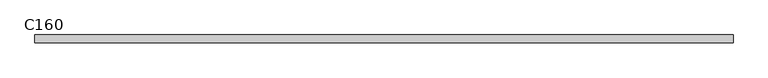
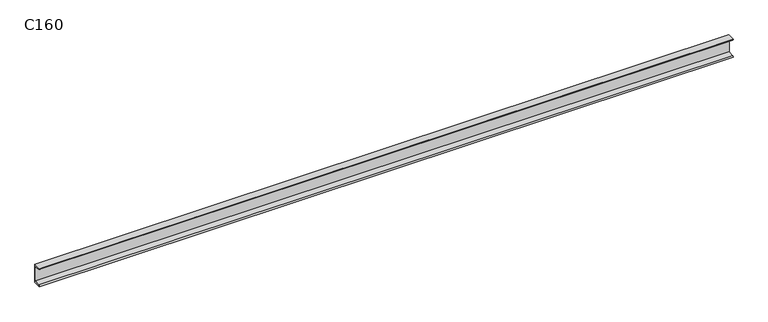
"""IFC4 building model written with IfcOpenShell, lengths in millimetres: beam geometry, RPLN C - Ceowniki normalne : C160."""

from ifc_helpers import new_model, si_unit, point, frame, frame_2d, origin, place, context, project, spatial, polyline, circle_curve, trimmed, segment, composite_curve, outline, extrude, source, transform, mapped, element, save


def c160_53ad175f(model_context):
    return source(origin(), model_context, "Body", "SweptSolid", [
        extrude(outline(composite_curve([segment(polyline([(18.4, 80.0), (18.4, -80.0), (-46.6, -80.0)]), True, "CONTINUOUS"), segment(trimmed(circle_curve(frame_2d((-36.1, -80.0)), 10.5), [point((-46.6, -80.0))], [point((-36.1, -69.5))], False, "CARTESIAN"), True, "CONTINUOUS"), segment(polyline([(-36.1, -69.5), (10.9, -62.0559313), (10.9, 62.0559313), (-36.1, 69.5)]), True, "CONTINUOUS"), segment(trimmed(circle_curve(frame_2d((-36.1, 80.0)), 10.5), [point((-36.1, 69.5))], [point((-46.6, 80.0))], False, "CARTESIAN"), True, "CONTINUOUS"), segment(polyline([(-46.6, 80.0), (18.4, 80.0)]), True, "CONTINUOUS")], self_intersect=False)), frame((-3000.0, 0.0, 0.0), z_axis=(1.0, 0.0, 0.0), x_axis=(0.0, 1.0, 0.0)), (0.0, 0.0, 1.0), 5795.6407568),
    ])


if __name__ == "__main__":
    model = new_model("IFC4")
    model_context = context("Model", 3, world=origin())
    ifc_project = project(units=[si_unit("LENGTHUNIT", "METRE", prefix="MILLI")], contexts=[model_context])
    site = spatial("IfcSite", under=ifc_project)
    building = spatial("IfcBuilding", under=site)
    placement = place(None, origin())
    c160_shape = c160_53ad175f(model_context)
    element("IfcBeam", 1, ObjectType="RPLN C - Ceowniki normalne : C160", at=placement, inside=building, context=model_context, shape_type="MappedRepresentation", body=[
        mapped(c160_shape, transform((0.0, 0.0, 0.0), x_axis=(1.0, 0.0, 0.0), y_axis=(0.0, 1.0, 0.0), z_axis=(0.0, 0.0, 1.0))),
    ])
    save(model, "model.ifc")
